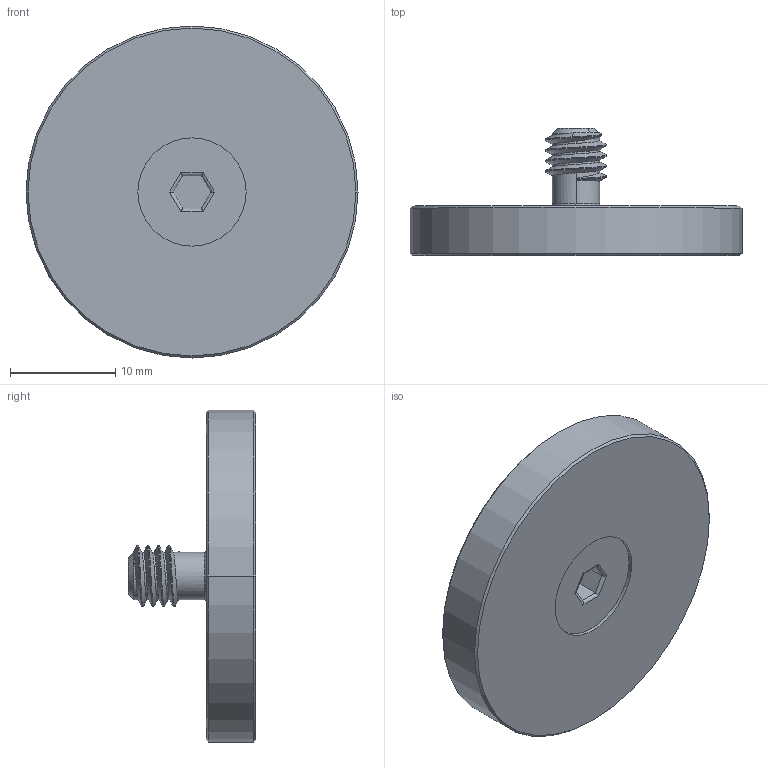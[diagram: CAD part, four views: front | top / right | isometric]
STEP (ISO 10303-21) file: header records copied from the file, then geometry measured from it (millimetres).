
FILE_DESCRIPTION((''),'2;1');
FILE_NAME('PCA31-S','2020-10-21T',('Administrator'),(''),'CREO PARAMETRIC BY PTC INC, 2017300','CREO PARAMETRIC BY PTC INC, 2017300','');
FILE_SCHEMA(('CONFIG_CONTROL_DESIGN'));
Length unit declared in the file: millimetre
Products named in the file (1): PCA31-S
Bounding box: 31.6 x 12.1 x 31.6 mm (x, y, z)
Volume: 3769.5 mm3; surface area: 2210.9 mm2
Topology: 1 solids, 1 shells, 52 faces, 121 edges, 74 vertices
Faces by surface type: cylinder 19, plane 13, bspline 12, cone 6, torus 2
Entity records: 2829 total; most frequent: CARTESIAN_POINT 1701, ORIENTED_EDGE 242, DIRECTION 186, EDGE_CURVE 121, VERTEX_POINT 74, AXIS2_PLACEMENT_3D 62, VECTOR 62, LINE 62
